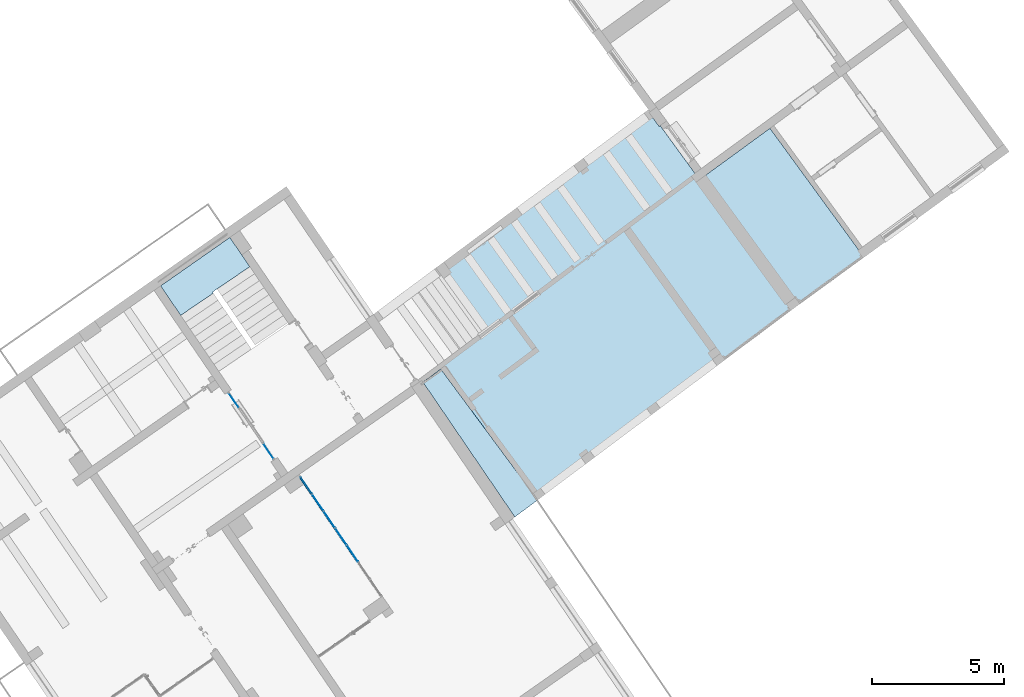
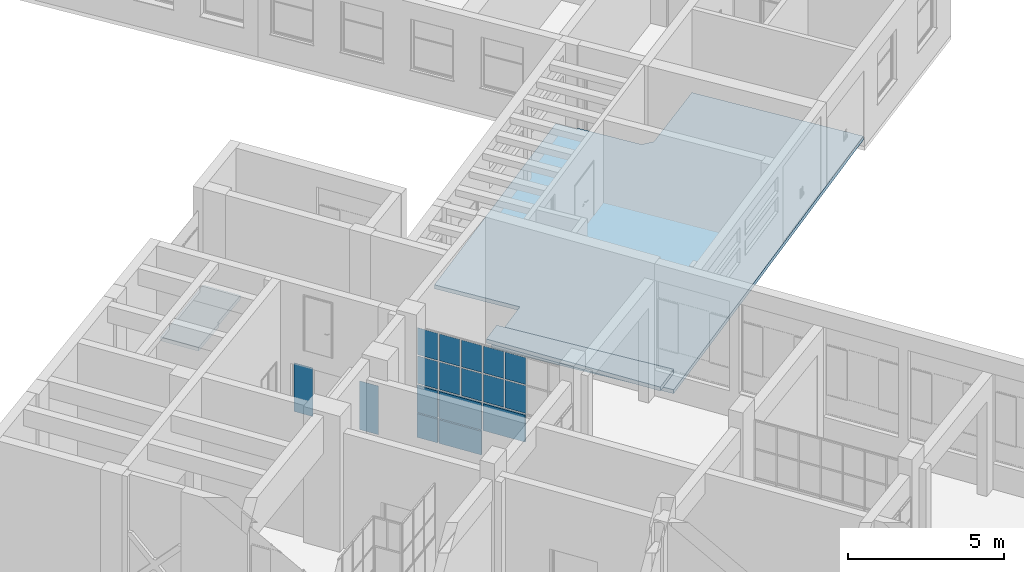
# One storey, part 50 of 157: 17 plates, 3 slabs, 2 elements without a shape of their own.
"""IFC2X3 building model written with IfcOpenShell, lengths in millimetres."""

from ifc_helpers import new_model, entity, si_unit, converted_unit, derived_unit, direction, frame, frame_2d, origin, place, context, subcontext, project, spatial, polyline, rectangle, outline, extrude, source, transform, mapped, material, layer, layer_set, layer_usage, type_object, type_shapes, element, aggregate, save


model = new_model("IFC2X3")

# Units and contexts
model_context = context("Model", 3, precision=0.01, world=origin(), true_north=direction((6.123031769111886e-17, 1.0)))
body_context = subcontext(model_context, "Body", "Model", "MODEL_VIEW")
ifc_project = project(units=[si_unit("LENGTHUNIT", "METRE", prefix="MILLI"), si_unit("AREAUNIT", "SQUARE_METRE"), si_unit("VOLUMEUNIT", "CUBIC_METRE"), converted_unit("PLANEANGLEUNIT", "DEGREE", entity("IfcRatioMeasure", 0.017453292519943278), si_unit("PLANEANGLEUNIT", "RADIAN"), dimensions=[0, 0, 0, 0, 0, 0, 0]), si_unit("MASSUNIT", "GRAM", prefix="KILO"), derived_unit("MASSDENSITYUNIT", [(si_unit("MASSUNIT", "GRAM", prefix="KILO"), 1), (si_unit("LENGTHUNIT", "METRE"), -3)]), derived_unit("MOMENTOFINERTIAUNIT", [(si_unit("LENGTHUNIT", "METRE"), 4)]), si_unit("TIMEUNIT", "SECOND"), si_unit("FREQUENCYUNIT", "HERTZ"), si_unit("THERMODYNAMICTEMPERATUREUNIT", "DEGREE_CELSIUS"), derived_unit("THERMALTRANSMITTANCEUNIT", [(si_unit("MASSUNIT", "GRAM", prefix="KILO"), 1), (si_unit("THERMODYNAMICTEMPERATUREUNIT", "KELVIN"), -1), (si_unit("TIMEUNIT", "SECOND"), -3)]), derived_unit("THERMALCONDUCTANCEUNIT", [(si_unit("MASSUNIT", "GRAM", prefix="KILO"), 1), (si_unit("LENGTHUNIT", "METRE"), 1), (si_unit("THERMODYNAMICTEMPERATUREUNIT", "KELVIN"), -1), (si_unit("TIMEUNIT", "SECOND"), -3)]), derived_unit("VOLUMETRICFLOWRATEUNIT", [(si_unit("LENGTHUNIT", "METRE"), 3), (si_unit("TIMEUNIT", "SECOND"), -1)]), derived_unit("MASSFLOWRATEUNIT", [(si_unit("MASSUNIT", "GRAM", prefix="KILO"), 1), (si_unit("TIMEUNIT", "SECOND"), -1)]), derived_unit("ROTATIONALFREQUENCYUNIT", [(si_unit("TIMEUNIT", "SECOND"), -1)]), si_unit("ELECTRICCURRENTUNIT", "AMPERE"), si_unit("ELECTRICVOLTAGEUNIT", "VOLT"), si_unit("POWERUNIT", "WATT"), converted_unit("FORCEUNIT", "KIP", entity("IfcRatioMeasure", 2.088543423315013e-05), si_unit("FORCEUNIT", "NEWTON"), dimensions=[1, 1, -2, 0, 0, 0, 0]), si_unit("ILLUMINANCEUNIT", "LUX"), si_unit("LUMINOUSFLUXUNIT", "LUMEN"), si_unit("LUMINOUSINTENSITYUNIT", "CANDELA"), derived_unit("USERDEFINED", [(si_unit("MASSUNIT", "GRAM", prefix="KILO"), -1), (si_unit("LENGTHUNIT", "METRE"), -2), (si_unit("TIMEUNIT", "SECOND"), 3), (si_unit("LUMINOUSFLUXUNIT", "LUMEN"), 1)]), derived_unit("USERDEFINED", [(si_unit("MASSUNIT", "GRAM", prefix="KILO"), 1), (si_unit("LENGTHUNIT", "METRE"), 3), (si_unit("TIMEUNIT", "SECOND"), -3), (si_unit("ELECTRICCURRENTUNIT", "AMPERE"), -2)]), derived_unit("USERDEFINED", [(si_unit("LENGTHUNIT", "METRE"), 2), (si_unit("TIMEUNIT", "SECOND"), -2)]), derived_unit("SOUNDPOWERUNIT", [(si_unit("MASSUNIT", "GRAM", prefix="KILO"), 1), (si_unit("LENGTHUNIT", "METRE"), 2), (si_unit("TIMEUNIT", "SECOND"), -3)]), derived_unit("SOUNDPRESSUREUNIT", [(si_unit("MASSUNIT", "GRAM", prefix="KILO"), 1), (si_unit("LENGTHUNIT", "METRE"), -1), (si_unit("TIMEUNIT", "SECOND"), -2)]), derived_unit("LINEARVELOCITYUNIT", [(si_unit("LENGTHUNIT", "METRE"), 1), (si_unit("TIMEUNIT", "SECOND"), -1)]), si_unit("PRESSUREUNIT", "PASCAL"), derived_unit("USERDEFINED", [(si_unit("LENGTHUNIT", "METRE"), -2), (si_unit("MASSUNIT", "GRAM", prefix="KILO"), 1), (si_unit("TIMEUNIT", "SECOND"), -2)]), derived_unit("LINEARFORCEUNIT", [(si_unit("MASSUNIT", "GRAM", prefix="KILO"), 1), (si_unit("LENGTHUNIT", "METRE"), 1), (si_unit("TIMEUNIT", "SECOND"), -2), (si_unit("LENGTHUNIT", "METRE"), -1)]), derived_unit("PLANARFORCEUNIT", [(si_unit("MASSUNIT", "GRAM", prefix="KILO"), 1), (si_unit("LENGTHUNIT", "METRE"), 1), (si_unit("TIMEUNIT", "SECOND"), -2), (si_unit("LENGTHUNIT", "METRE"), -2)]), derived_unit("SPECIFICHEATCAPACITYUNIT", [(si_unit("LENGTHUNIT", "METRE"), 2), (si_unit("TIMEUNIT", "SECOND"), -2), (si_unit("THERMODYNAMICTEMPERATUREUNIT", "KELVIN"), -1)]), derived_unit("VAPORPERMEABILITYUNIT", [(si_unit("TIMEUNIT", "SECOND"), 1), (si_unit("LENGTHUNIT", "METRE"), -1)]), derived_unit("DYNAMICVISCOSITYUNIT", [(si_unit("MASSUNIT", "GRAM", prefix="KILO"), 1), (si_unit("LENGTHUNIT", "METRE"), -1), (si_unit("TIMEUNIT", "SECOND"), -1)]), derived_unit("THERMALEXPANSIONCOEFFICIENTUNIT", [(si_unit("THERMODYNAMICTEMPERATUREUNIT", "KELVIN"), -1)])], contexts=[model_context])

# Site, building, storey
site_placement = place(None, frame((0.0, 0.0, 0.0), z_axis=(0.0, 0.0, 1.0), x_axis=(0.8191520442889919, 0.5735764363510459, 0.0)))
site = spatial("IfcSite", under=ifc_project, at=site_placement, Name="Default", CompositionType="ELEMENT")
building_placement = place(site_placement, origin())
building = spatial("IfcBuilding", under=site, at=building_placement, CompositionType="ELEMENT")
storey_placement = place(building_placement, origin())
storey = spatial("IfcBuildingStorey", under=building, at=storey_placement, Name="1.EG +0.00", CompositionType="ELEMENT", Elevation=-4.331468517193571e-12)

# Curtain wall, plates
curtain_wall_type_1 = type_object("IfcCurtainWallType", Name="Curtain Wall:Curtain_Wall_CJC_Int5", PredefinedType="NOTDEFINED")
curtain_wall_1_placement = place(storey_placement, origin())
curtain_wall_1 = element("IfcCurtainWall", 1, at=curtain_wall_1_placement, inside=storey, type_object=curtain_wall_type_1, Name="Curtain Wall:Curtain_Wall_CJC_Int5", ObjectType="Curtain Wall:Curtain_Wall_CJC_Int5")
ifc_material_1 = material(Name="Default")
plate_type_1 = type_object("IfcPlateType", Name="System Panel:Solid", PredefinedType="CURTAIN_PANEL", material=ifc_material_1)
shared_shape_1 = source(origin(), body_context, "Body", "SweptSolid", [
    extrude(rectangle(XDim=925.0000000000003, YDim=1507.2679333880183, at=frame_2d((0.0, -5.0799769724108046e-08), x_axis=(1.0, 0.0))), frame((5.078863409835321e-08, -19.049999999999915, 462.50000000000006), z_axis=(0.0, 1.0, 0.0), x_axis=(0.0, 0.0, 1.0)), (0.0, 0.0, 1.0), 63.5),
])
type_shapes(plate_type_1, [shared_shape_1])
plate_1_placement = place(curtain_wall_1_placement, frame((-209906.11731688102, 162164.2169098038, 50.0), z_axis=(0.0, 0.0, 1.0), x_axis=(0.012616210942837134, 0.9999204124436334, 0.0)))
plate_1 = element("IfcPlate", 2, at=plate_1_placement, type_object=plate_type_1, material=ifc_material_1, Name="System Panel:Solid", ObjectType="System Panel:Solid", context=body_context, shape_type="MappedRepresentation", body=[
    mapped(shared_shape_1, transform((0.0, 0.0, 0.0), scale=1.0)),
])
plate_type_2 = type_object("IfcPlateType", Name="System Panel:Solid", PredefinedType="CURTAIN_PANEL", material=ifc_material_1)
shared_shape_2 = source(origin(), body_context, "Body", "SweptSolid", [
    extrude(rectangle(XDim=63.5, YDim=728.6339668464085, at=frame_2d((0.0, 6.821210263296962e-13), x_axis=(1.0, 0.0))), frame((0.0, 12.700000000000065, 0.0), z_axis=(0.0, 0.0, 1.0), x_axis=(0.0, 1.0, 0.0)), (0.0, 0.0, 1.0), 925.0000000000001),
])
type_shapes(plate_type_2, [shared_shape_2])
plate_2_placement = place(curtain_wall_1_placement, frame((-209891.38220132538, 163332.07490540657, 50.0), z_axis=(0.0, 0.0, 1.0), x_axis=(0.012616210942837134, 0.9999204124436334, 0.0)))
plate_2 = element("IfcPlate", 3, at=plate_2_placement, type_object=plate_type_2, material=ifc_material_1, Name="System Panel:Solid", ObjectType="System Panel:Solid", context=body_context, shape_type="MappedRepresentation", body=[
    mapped(shared_shape_2, transform((0.0, 0.0, 0.0), scale=1.0)),
])
plate_type_3 = type_object("IfcPlateType", Name="System Panel:Solid", PredefinedType="CURTAIN_PANEL", material=ifc_material_1)
shared_shape_3 = source(origin(), body_context, "Body", "SweptSolid", [
    extrude(rectangle(XDim=1049.9999999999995, YDim=1507.2679333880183, at=frame_2d((1.1368683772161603e-13, -5.0799769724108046e-08), x_axis=(1.0, 0.0))), frame((5.078863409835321e-08, -19.049999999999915, 525.0), z_axis=(0.0, 1.0, 0.0), x_axis=(0.0, 0.0, 1.0)), (0.0, 0.0, 1.0), 63.5),
])
type_shapes(plate_type_3, [shared_shape_3])
plate_3_placement = place(curtain_wall_1_placement, frame((-209925.7641376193, 160607.07291586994, 1025.0), z_axis=(0.0, 0.0, 1.0), x_axis=(0.012616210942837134, 0.9999204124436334, 0.0)))
plate_3 = element("IfcPlate", 4, at=plate_3_placement, type_object=plate_type_3, material=ifc_material_1, Name="System Panel:Solid", ObjectType="System Panel:Solid", context=body_context, shape_type="MappedRepresentation", body=[
    mapped(shared_shape_3, transform((0.0, 0.0, 0.0), scale=1.0)),
])
plate_4_placement = place(curtain_wall_1_placement, frame((-209906.11731688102, 162164.2169098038, 1025.0), z_axis=(0.0, 0.0, 1.0), x_axis=(0.012616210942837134, 0.9999204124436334, 0.0)))
plate_4 = element("IfcPlate", 5, at=plate_4_placement, type_object=plate_type_3, material=ifc_material_1, Name="System Panel:Solid", ObjectType="System Panel:Solid", context=body_context, shape_type="MappedRepresentation", body=[
    mapped(shared_shape_3, transform((0.0, 0.0, 0.0), scale=1.0)),
])
plate_type_4 = type_object("IfcPlateType", Name="System Panel:Solid", PredefinedType="CURTAIN_PANEL", material=ifc_material_1)
shared_shape_4 = source(origin(), body_context, "Body", "SweptSolid", [
    extrude(rectangle(XDim=63.5, YDim=728.6339668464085, at=frame_2d((0.0, 6.821210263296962e-13), x_axis=(1.0, 0.0))), frame((0.0, 12.700000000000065, 0.0), z_axis=(0.0, 0.0, 1.0), x_axis=(0.0, 1.0, 0.0)), (0.0, 0.0, 1.0), 1050.0),
])
type_shapes(plate_type_4, [shared_shape_4])
plate_5_placement = place(curtain_wall_1_placement, frame((-209891.38220132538, 163332.07490540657, 1025.0), z_axis=(0.0, 0.0, 1.0), x_axis=(0.012616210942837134, 0.9999204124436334, 0.0)))
plate_5 = element("IfcPlate", 6, at=plate_5_placement, type_object=plate_type_4, material=ifc_material_1, Name="System Panel:Solid", ObjectType="System Panel:Solid", context=body_context, shape_type="MappedRepresentation", body=[
    mapped(shared_shape_4, transform((0.0, 0.0, 0.0), scale=1.0)),
])
ifc_material_2 = material(Name="Glass")
plate_type_5 = type_object("IfcPlateType", Name="System Panel:Glazed_CJC", PredefinedType="CURTAIN_PANEL", material=ifc_material_2)
shared_shape_5 = source(origin(), body_context, "Body", "SweptSolid", [
    extrude(rectangle(XDim=10.0, YDim=728.6339668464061, at=frame_2d((0.0, 1.7905676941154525e-12), x_axis=(1.0, 0.0))), frame((0.0, 0.0, 0.0), z_axis=(0.0, 0.0, 1.0), x_axis=(0.0, 1.0, 0.0)), (0.0, 0.0, 1.0), 1075.0000000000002),
])
type_shapes(plate_type_5, [shared_shape_5])
plate_6_placement = place(curtain_wall_1_placement, frame((-209930.67584280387, 160217.78691738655, 2125.0), z_axis=(0.0, 0.0, 1.0), x_axis=(0.012616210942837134, 0.9999204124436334, 0.0)))
plate_6 = element("IfcPlate", 7, at=plate_6_placement, type_object=plate_type_5, material=ifc_material_2, Name="System Panel:Glazed_CJC", ObjectType="System Panel:Glazed_CJC", context=body_context, shape_type="MappedRepresentation", body=[
    mapped(shared_shape_5, transform((0.0, 0.0, 0.0), scale=1.0)),
])
plate_7_placement = place(curtain_wall_1_placement, frame((-209920.85243243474, 160996.35891435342, 2125.0), z_axis=(0.0, 0.0, 1.0), x_axis=(0.012616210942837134, 0.9999204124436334, 0.0)))
plate_7 = element("IfcPlate", 8, at=plate_7_placement, type_object=plate_type_5, material=ifc_material_2, Name="System Panel:Glazed_CJC", ObjectType="System Panel:Glazed_CJC", context=body_context, shape_type="MappedRepresentation", body=[
    mapped(shared_shape_5, transform((0.0, 0.0, 0.0), scale=1.0)),
])
plate_8_placement = place(curtain_wall_1_placement, frame((-209911.0290220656, 161774.93091132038, 2125.0), z_axis=(0.0, 0.0, 1.0), x_axis=(0.012616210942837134, 0.9999204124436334, 0.0)))
plate_8 = element("IfcPlate", 9, at=plate_8_placement, type_object=plate_type_5, material=ifc_material_2, Name="System Panel:Glazed_CJC", ObjectType="System Panel:Glazed_CJC", context=body_context, shape_type="MappedRepresentation", body=[
    mapped(shared_shape_5, transform((0.0, 0.0, 0.0), scale=1.0)),
])
plate_9_placement = place(curtain_wall_1_placement, frame((-209901.20561169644, 162553.5029082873, 2125.0), z_axis=(0.0, 0.0, 1.0), x_axis=(0.012616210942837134, 0.9999204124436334, 0.0)))
plate_9 = element("IfcPlate", 10, at=plate_9_placement, type_object=plate_type_5, material=ifc_material_2, Name="System Panel:Glazed_CJC", ObjectType="System Panel:Glazed_CJC", context=body_context, shape_type="MappedRepresentation", body=[
    mapped(shared_shape_5, transform((0.0, 0.0, 0.0), scale=1.0)),
])
plate_10_placement = place(curtain_wall_1_placement, frame((-209891.38220132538, 163332.07490540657, 2125.0), z_axis=(0.0, 0.0, 1.0), x_axis=(0.012616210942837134, 0.9999204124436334, 0.0)))
plate_10 = element("IfcPlate", 11, at=plate_10_placement, type_object=plate_type_5, material=ifc_material_2, Name="System Panel:Glazed_CJC", ObjectType="System Panel:Glazed_CJC", context=body_context, shape_type="MappedRepresentation", body=[
    mapped(shared_shape_5, transform((0.0, 0.0, 0.0), scale=1.0)),
])
plate_type_6 = type_object("IfcPlateType", Name="System Panel:Glazed_CJC", PredefinedType="CURTAIN_PANEL", material=ifc_material_2)
shared_shape_6 = source(origin(), body_context, "Body", "SweptSolid", [
    extrude(rectangle(XDim=10.0, YDim=728.6339668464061, at=frame_2d((0.0, 1.7905676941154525e-12), x_axis=(1.0, 0.0))), frame((0.0, 0.0, 0.0), z_axis=(0.0, 0.0, 1.0), x_axis=(0.0, 1.0, 0.0)), (0.0, 0.0, 1.0), 1050.0000000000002),
])
type_shapes(plate_type_6, [shared_shape_6])
plate_11_placement = place(curtain_wall_1_placement, frame((-209930.67584280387, 160217.78691738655, 3250.0), z_axis=(0.0, 0.0, 1.0), x_axis=(0.012616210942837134, 0.9999204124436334, 0.0)))
plate_11 = element("IfcPlate", 12, at=plate_11_placement, type_object=plate_type_6, material=ifc_material_2, Name="System Panel:Glazed_CJC", ObjectType="System Panel:Glazed_CJC", context=body_context, shape_type="MappedRepresentation", body=[
    mapped(shared_shape_6, transform((0.0, 0.0, 0.0), scale=1.0)),
])
plate_12_placement = place(curtain_wall_1_placement, frame((-209920.85243243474, 160996.35891435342, 3250.0), z_axis=(0.0, 0.0, 1.0), x_axis=(0.012616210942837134, 0.9999204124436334, 0.0)))
plate_12 = element("IfcPlate", 13, at=plate_12_placement, type_object=plate_type_6, material=ifc_material_2, Name="System Panel:Glazed_CJC", ObjectType="System Panel:Glazed_CJC", context=body_context, shape_type="MappedRepresentation", body=[
    mapped(shared_shape_6, transform((0.0, 0.0, 0.0), scale=1.0)),
])
plate_13_placement = place(curtain_wall_1_placement, frame((-209911.0290220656, 161774.93091132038, 3250.0), z_axis=(0.0, 0.0, 1.0), x_axis=(0.012616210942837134, 0.9999204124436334, 0.0)))
plate_13 = element("IfcPlate", 14, at=plate_13_placement, type_object=plate_type_6, material=ifc_material_2, Name="System Panel:Glazed_CJC", ObjectType="System Panel:Glazed_CJC", context=body_context, shape_type="MappedRepresentation", body=[
    mapped(shared_shape_6, transform((0.0, 0.0, 0.0), scale=1.0)),
])
plate_14_placement = place(curtain_wall_1_placement, frame((-209901.20561169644, 162553.5029082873, 3250.0), z_axis=(0.0, 0.0, 1.0), x_axis=(0.012616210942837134, 0.9999204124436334, 0.0)))
plate_14 = element("IfcPlate", 15, at=plate_14_placement, type_object=plate_type_6, material=ifc_material_2, Name="System Panel:Glazed_CJC", ObjectType="System Panel:Glazed_CJC", context=body_context, shape_type="MappedRepresentation", body=[
    mapped(shared_shape_6, transform((0.0, 0.0, 0.0), scale=1.0)),
])
plate_15_placement = place(curtain_wall_1_placement, frame((-209891.38220132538, 163332.07490540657, 3250.0), z_axis=(0.0, 0.0, 1.0), x_axis=(0.012616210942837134, 0.9999204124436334, 0.0)))
plate_15 = element("IfcPlate", 16, at=plate_15_placement, type_object=plate_type_6, material=ifc_material_2, Name="System Panel:Glazed_CJC", ObjectType="System Panel:Glazed_CJC", context=body_context, shape_type="MappedRepresentation", body=[
    mapped(shared_shape_6, transform((0.0, 0.0, 0.0), scale=1.0)),
])
aggregate(curtain_wall_1, [plate_1, plate_2, plate_3, plate_4, plate_5, plate_6, plate_7, plate_8, plate_9, plate_10, plate_11, plate_12, plate_13, plate_14, plate_15])

# Slabs
ifc_material_3 = material(Name="Analytical Floor Surface_CJC")
ifc_layer = layer(ifc_material_3, 150.0)
ifc_layer_set = layer_set([ifc_layer], Name="Floor:Boden_CJC")
ifc_layer_usage = layer_usage(ifc_layer_set, "AXIS3", "POSITIVE", 0.0)
slab_type = type_object("IfcSlabType", Name="Floor:Boden_CJC", PredefinedType="FLOOR", material=ifc_layer_set)
slab_1_placement = place(storey_placement, origin())
element("IfcSlab", 17, at=slab_1_placement, inside=storey, type_object=slab_type, material=ifc_layer_usage, Name="Floor:Boden_CJC", ObjectType="Floor:Boden_CJC", PredefinedType="FLOOR", context=body_context, shape_type="SweptSolid", body=[
    extrude(outline(polyline([(-1555.3765792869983, -896.396741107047), (1644.8685396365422, -896.396741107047), (1627.8018609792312, 444.2040923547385), (-72.04809001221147, 422.56394999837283), (-72.68456939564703, 472.5598987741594), (-1572.5611619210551, 453.46554108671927), (-1555.3765792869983, -896.396741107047)])), frame((-208516.58585897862, 171774.96217324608, 1400.0), z_axis=(0.0, 0.0, -1.0), x_axis=(1.0, 0.0, 0.0)), (0.0, 0.0, 1.0), 150.0),
])
slab_2_placement = place(storey_placement, origin())
element("IfcSlab", 18, at=slab_2_placement, inside=storey, type_object=slab_type, material=ifc_layer_usage, Name="Floor:Boden_CJC", ObjectType="Floor:Boden_CJC", PredefinedType="FLOOR", context=body_context, shape_type="SweptSolid", body=[
    extrude(outline(polyline([(-6431.164884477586, -3246.1999137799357), (3357.4703857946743, -3246.1999137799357), (3349.4823065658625, -2496.750596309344), (3399.496680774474, -2496.2196659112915), (3375.835516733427, -267.3054488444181), (3672.638085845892, 35.5717680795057), (6669.1900020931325, 64.4795361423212), (6611.333389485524, 6061.841317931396), (-8773.865116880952, 6093.898230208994), (-8755.649943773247, -249.9236489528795), (-6474.766422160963, -253.19166478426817), (-6431.164884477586, -3246.1999137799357)])), frame((-194438.91204232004, 164205.28972820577, -750.0), z_axis=(0.0, 0.0, -1.0), x_axis=(0.9995749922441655, 0.029151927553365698, 0.0)), (0.0, 0.0, 1.0), 150.0),
])
slab_3_placement = place(storey_placement, origin())
element("IfcSlab", 19, at=slab_3_placement, inside=storey, type_object=slab_type, material=ifc_layer_usage, Name="Floor:Boden_CJC", ObjectType="Floor:Boden_CJC", PredefinedType="FLOOR", context=body_context, shape_type="SweptSolid", body=[
    extrude(outline(polyline([(-3086.662973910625, -479.56674718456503), (3082.1834350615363, -479.56674718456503), (3087.5325002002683, 599.9675364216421), (-3083.05296135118, 359.16595794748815), (-3086.662973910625, -479.56674718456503)])), frame((-203591.8054779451, 160926.72131047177, 50.0), z_axis=(0.0, 0.0, -1.0), x_axis=(0.026281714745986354, -0.9996545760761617, 0.0)), (0.0, 0.0, 1.0), 150.0),
])

# Curtain wall, plates
curtain_wall_type_2 = type_object("IfcCurtainWallType", Name="Curtain Wall:Curtain_Wall_CJC_ENTR1", PredefinedType="NOTDEFINED")
curtain_wall_2_placement = place(storey_placement, origin())
curtain_wall_2 = element("IfcCurtainWall", 20, at=curtain_wall_2_placement, inside=storey, type_object=curtain_wall_type_2, Name="Curtain Wall:Curtain_Wall_CJC_ENTR1", ObjectType="Curtain Wall:Curtain_Wall_CJC_ENTR1")
plate_type_7 = type_object("IfcPlateType", Name="System Panel:Glazed_CJC", PredefinedType="CURTAIN_PANEL", material=ifc_material_2)
shared_shape_7 = source(origin(), body_context, "Body", "SweptSolid", [
    extrude(rectangle(XDim=10.0, YDim=675.0000000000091, at=frame_2d((0.0, -5.172751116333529e-12), x_axis=(1.0, 0.0))), frame((0.0, 0.0, 0.0), z_axis=(0.0, 0.0, 1.0), x_axis=(0.0, 1.0, 0.0)), (0.0, 0.0, 1.0), 1900.0000000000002),
])
type_shapes(plate_type_7, [shared_shape_7])
plate_16_placement = place(curtain_wall_2_placement, frame((-210316.97723811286, 165208.8275173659, 50.0), z_axis=(0.0, 0.0, 1.0), x_axis=(0.012729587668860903, 0.999918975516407, 0.0)))
plate_16 = element("IfcPlate", 21, at=plate_16_placement, type_object=plate_type_7, material=ifc_material_2, Name="System Panel:Glazed_CJC", ObjectType="System Panel:Glazed_CJC", context=body_context, shape_type="MappedRepresentation", body=[
    mapped(shared_shape_7, transform((0.0, 0.0, 0.0), scale=1.0)),
])
plate_type_8 = type_object("IfcPlateType", Name="System Panel:Glazed_CJC", PredefinedType="CURTAIN_PANEL", material=ifc_material_2)
shared_shape_8 = source(origin(), body_context, "Body", "SweptSolid", [
    extrude(rectangle(XDim=10.0, YDim=671.1240925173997, at=frame_2d((0.0, -2.3590018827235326e-12), x_axis=(1.0, 0.0))), frame((0.0, 0.0, 0.0), z_axis=(0.0, 0.0, 1.0), x_axis=(0.0, 1.0, 0.0)), (0.0, 0.0, 1.0), 1900.0000000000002),
])
type_shapes(plate_type_8, [shared_shape_8])
plate_17_placement = place(curtain_wall_2_placement, frame((-210287.40561613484, 167531.70133872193, 50.0), z_axis=(0.0, 0.0, 1.0), x_axis=(0.012729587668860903, 0.999918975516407, 0.0)))
plate_17 = element("IfcPlate", 22, at=plate_17_placement, type_object=plate_type_8, material=ifc_material_2, Name="System Panel:Glazed_CJC", ObjectType="System Panel:Glazed_CJC", context=body_context, shape_type="MappedRepresentation", body=[
    mapped(shared_shape_8, transform((0.0, 0.0, 0.0), scale=1.0)),
])
aggregate(curtain_wall_2, [plate_16, plate_17])

save(model, "model.ifc")
